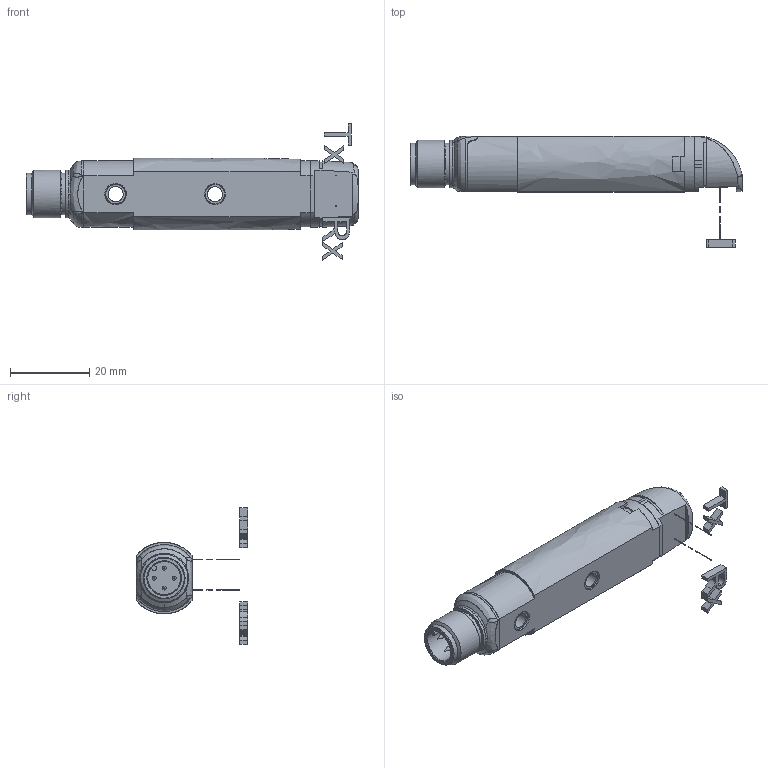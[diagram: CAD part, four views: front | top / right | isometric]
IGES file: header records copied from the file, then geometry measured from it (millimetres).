
Global section: file name: D:\TMP\DSD-0093.igs; preprocessor: I-DEAS 3D IGES Translator 11; date: 20060608.103851; units: millimetre
Bounding box: 83.55 x 28 x 34.32 mm (x, y, z)
Volume: 91.1 mm3; surface area: 5641 mm2
Topology: 8 solids, 8 shells, 249 faces, 1234 edges, 1118 vertices
Faces by surface type: bspline 249
